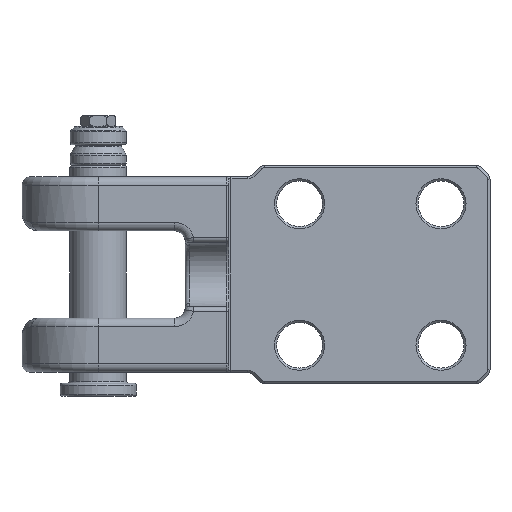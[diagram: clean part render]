
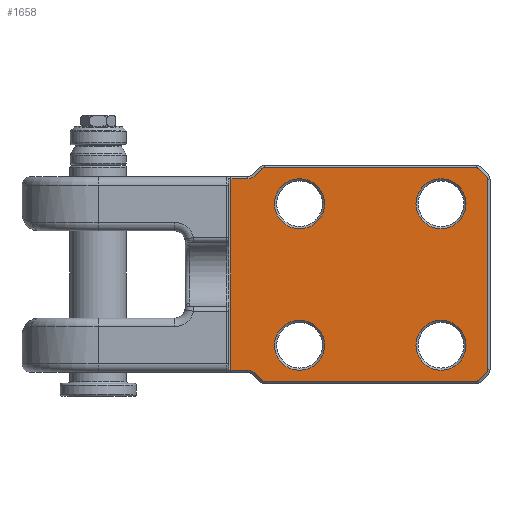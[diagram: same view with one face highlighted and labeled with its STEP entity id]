
A CAD part, left-side view. The second image highlights one B-rep face of the part: STEP entity #1658.
In plain terms, the highlighted planar face has unit normal (-1, 0, 0).
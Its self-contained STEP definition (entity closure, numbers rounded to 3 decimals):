
#1658=ADVANCED_FACE('',(#3230,#3231,#3232,#3233,#3234),#2618,.F.);
#2618=PLANE('',#17720);
#2990=CIRCLE('',#17708,11.5);
#2991=CIRCLE('',#17709,11.5);
#2992=CIRCLE('',#17710,11.5);
#2993=CIRCLE('',#17711,11.5);
#2994=CIRCLE('',#17712,4.);
#2995=CIRCLE('',#17713,4.);
#2996=CIRCLE('',#17714,2.);
#2997=CIRCLE('',#17715,2.);
#2998=CIRCLE('',#17716,2.);
#2999=CIRCLE('',#17717,2.);
#3000=CIRCLE('',#17718,2.);
#3001=CIRCLE('',#17719,2.);
#3230=FACE_BOUND('',#3451,.T.);
#3231=FACE_BOUND('',#3452,.T.);
#3232=FACE_BOUND('',#3453,.T.);
#3233=FACE_BOUND('',#3454,.T.);
#3234=FACE_BOUND('',#3455,.T.);
#3451=EDGE_LOOP('',(#6476));
#3452=EDGE_LOOP('',(#6477));
#3453=EDGE_LOOP('',(#6478));
#3454=EDGE_LOOP('',(#6479));
#3455=EDGE_LOOP('',(#6480,#6481,#6482,#6483,#6484,#6485,#6486,#6487,#6488,
#6489,#6490,#6491,#6492,#6493,#6494,#6495,#6496,#6497));
#6476=ORIENTED_EDGE('',*,*,#13018,.T.);
#6477=ORIENTED_EDGE('',*,*,#13019,.T.);
#6478=ORIENTED_EDGE('',*,*,#13020,.T.);
#6479=ORIENTED_EDGE('',*,*,#13021,.T.);
#6480=ORIENTED_EDGE('',*,*,#13022,.T.);
#6481=ORIENTED_EDGE('',*,*,#13023,.T.);
#6482=ORIENTED_EDGE('',*,*,#13024,.T.);
#6483=ORIENTED_EDGE('',*,*,#13025,.T.);
#6484=ORIENTED_EDGE('',*,*,#13026,.T.);
#6485=ORIENTED_EDGE('',*,*,#13027,.T.);
#6486=ORIENTED_EDGE('',*,*,#13028,.T.);
#6487=ORIENTED_EDGE('',*,*,#13029,.T.);
#6488=ORIENTED_EDGE('',*,*,#13030,.T.);
#6489=ORIENTED_EDGE('',*,*,#13031,.T.);
#6490=ORIENTED_EDGE('',*,*,#13032,.T.);
#6491=ORIENTED_EDGE('',*,*,#13033,.T.);
#6492=ORIENTED_EDGE('',*,*,#13034,.T.);
#6493=ORIENTED_EDGE('',*,*,#13035,.T.);
#6494=ORIENTED_EDGE('',*,*,#13036,.T.);
#6495=ORIENTED_EDGE('',*,*,#13037,.T.);
#6496=ORIENTED_EDGE('',*,*,#13038,.T.);
#6497=ORIENTED_EDGE('',*,*,#13039,.T.);
#11389=VERTEX_POINT('',#23459);
#11390=VERTEX_POINT('',#23461);
#11391=VERTEX_POINT('',#23463);
#11392=VERTEX_POINT('',#23465);
#11393=VERTEX_POINT('',#23467);
#11394=VERTEX_POINT('',#23468);
#11395=VERTEX_POINT('',#23470);
#11396=VERTEX_POINT('',#23472);
#11397=VERTEX_POINT('',#23474);
#11398=VERTEX_POINT('',#23476);
#11399=VERTEX_POINT('',#23478);
#11400=VERTEX_POINT('',#23480);
#11401=VERTEX_POINT('',#23482);
#11402=VERTEX_POINT('',#23484);
#11403=VERTEX_POINT('',#23486);
#11404=VERTEX_POINT('',#23488);
#11405=VERTEX_POINT('',#23490);
#11406=VERTEX_POINT('',#23492);
#11407=VERTEX_POINT('',#23494);
#11408=VERTEX_POINT('',#23496);
#11409=VERTEX_POINT('',#23498);
#11410=VERTEX_POINT('',#23500);
#13018=EDGE_CURVE('',#11389,#11389,#2990,.T.);
#13019=EDGE_CURVE('',#11390,#11390,#2991,.T.);
#13020=EDGE_CURVE('',#11391,#11391,#2992,.T.);
#13021=EDGE_CURVE('',#11392,#11392,#2993,.T.);
#13022=EDGE_CURVE('',#11393,#11394,#2994,.T.);
#13023=EDGE_CURVE('',#11394,#11395,#15212,.T.);
#13024=EDGE_CURVE('',#11395,#11396,#15213,.T.);
#13025=EDGE_CURVE('',#11396,#11397,#15214,.T.);
#13026=EDGE_CURVE('',#11397,#11398,#2995,.T.);
#13027=EDGE_CURVE('',#11398,#11399,#15215,.T.);
#13028=EDGE_CURVE('',#11399,#11400,#2996,.T.);
#13029=EDGE_CURVE('',#11400,#11401,#15216,.T.);
#13030=EDGE_CURVE('',#11401,#11402,#2997,.T.);
#13031=EDGE_CURVE('',#11402,#11403,#15217,.T.);
#13032=EDGE_CURVE('',#11403,#11404,#2998,.T.);
#13033=EDGE_CURVE('',#11404,#11405,#15218,.T.);
#13034=EDGE_CURVE('',#11405,#11406,#2999,.T.);
#13035=EDGE_CURVE('',#11406,#11407,#15219,.T.);
#13036=EDGE_CURVE('',#11407,#11408,#3000,.T.);
#13037=EDGE_CURVE('',#11408,#11409,#15220,.T.);
#13038=EDGE_CURVE('',#11409,#11410,#3001,.T.);
#13039=EDGE_CURVE('',#11410,#11393,#15221,.T.);
#15212=LINE('',#23469,#16293);
#15213=LINE('',#23471,#16294);
#15214=LINE('',#23473,#16295);
#15215=LINE('',#23477,#16296);
#15216=LINE('',#23481,#16297);
#15217=LINE('',#23485,#16298);
#15218=LINE('',#23489,#16299);
#15219=LINE('',#23493,#16300);
#15220=LINE('',#23497,#16301);
#15221=LINE('',#23501,#16302);
#16293=VECTOR('',#18709,1.);
#16294=VECTOR('',#18710,1.);
#16295=VECTOR('',#18711,1.);
#16296=VECTOR('',#18714,1.);
#16297=VECTOR('',#18717,1.);
#16298=VECTOR('',#18720,1.);
#16299=VECTOR('',#18723,1.);
#16300=VECTOR('',#18726,1.);
#16301=VECTOR('',#18729,1.);
#16302=VECTOR('',#18732,1.);
#17708=AXIS2_PLACEMENT_3D('',#23458,#18699,#18700);
#17709=AXIS2_PLACEMENT_3D('',#23460,#18701,#18702);
#17710=AXIS2_PLACEMENT_3D('',#23462,#18703,#18704);
#17711=AXIS2_PLACEMENT_3D('',#23464,#18705,#18706);
#17712=AXIS2_PLACEMENT_3D('',#23466,#18707,#18708);
#17713=AXIS2_PLACEMENT_3D('',#23475,#18712,#18713);
#17714=AXIS2_PLACEMENT_3D('',#23479,#18715,#18716);
#17715=AXIS2_PLACEMENT_3D('',#23483,#18718,#18719);
#17716=AXIS2_PLACEMENT_3D('',#23487,#18721,#18722);
#17717=AXIS2_PLACEMENT_3D('',#23491,#18724,#18725);
#17718=AXIS2_PLACEMENT_3D('',#23495,#18727,#18728);
#17719=AXIS2_PLACEMENT_3D('',#23499,#18730,#18731);
#17720=AXIS2_PLACEMENT_3D('',#23502,#18733,#18734);
#18699=DIRECTION('',(1.,0.,0.));
#18700=DIRECTION('',(0.,0.,-1.));
#18701=DIRECTION('',(1.,0.,0.));
#18702=DIRECTION('',(0.,0.,-1.));
#18703=DIRECTION('',(1.,0.,0.));
#18704=DIRECTION('',(0.,0.,-1.));
#18705=DIRECTION('',(1.,0.,0.));
#18706=DIRECTION('',(0.,0.,-1.));
#18707=DIRECTION('',(1.,0.,0.));
#18708=DIRECTION('',(0.,0.,-1.));
#18709=DIRECTION('',(0.,1.,0.));
#18710=DIRECTION('',(0.,0.,-1.));
#18711=DIRECTION('',(0.,-1.,0.));
#18712=DIRECTION('',(1.,0.,0.));
#18713=DIRECTION('',(0.,0.,-1.));
#18714=DIRECTION('',(0.,-0.707,-0.707));
#18715=DIRECTION('',(-1.,0.,0.));
#18716=DIRECTION('',(0.,0.,-1.));
#18717=DIRECTION('',(0.,-1.,0.));
#18718=DIRECTION('',(-1.,0.,0.));
#18719=DIRECTION('',(0.,0.,-1.));
#18720=DIRECTION('',(0.,-0.707,0.707));
#18721=DIRECTION('',(-1.,0.,0.));
#18722=DIRECTION('',(0.,0.,-1.));
#18723=DIRECTION('',(0.,0.,1.));
#18724=DIRECTION('',(-1.,0.,0.));
#18725=DIRECTION('',(0.,0.,-1.));
#18726=DIRECTION('',(0.,0.707,0.707));
#18727=DIRECTION('',(-1.,0.,0.));
#18728=DIRECTION('',(0.,0.,-1.));
#18729=DIRECTION('',(0.,1.,0.));
#18730=DIRECTION('',(-1.,0.,0.));
#18731=DIRECTION('',(0.,0.,-1.));
#18732=DIRECTION('',(0.,0.707,-0.707));
#18733=DIRECTION('',(1.,0.,0.));
#18734=DIRECTION('',(0.,0.,-1.));
#23458=CARTESIAN_POINT('',(-15.,22.5,-82.5));
#23459=CARTESIAN_POINT('',(-15.,22.5,-94.));
#23460=CARTESIAN_POINT('',(-15.,87.5,-82.5));
#23461=CARTESIAN_POINT('',(-15.,87.5,-94.));
#23462=CARTESIAN_POINT('',(-15.,22.5,-17.5));
#23463=CARTESIAN_POINT('',(-15.,22.5,-29.));
#23464=CARTESIAN_POINT('',(-15.,87.5,-17.5));
#23465=CARTESIAN_POINT('',(-15.,87.5,-29.));
#23466=CARTESIAN_POINT('',(-15.,111.243,-2.));
#23467=CARTESIAN_POINT('',(-15.,108.414,-4.828));
#23468=CARTESIAN_POINT('',(-15.,111.243,-6.));
#23469=CARTESIAN_POINT('',(-15.,0.,-6.));
#23470=CARTESIAN_POINT('',(-15.,119.,-6.));
#23471=CARTESIAN_POINT('',(-15.,119.,0.));
#23472=CARTESIAN_POINT('',(-15.,119.,-94.));
#23473=CARTESIAN_POINT('',(-15.,111.243,-94.));
#23474=CARTESIAN_POINT('',(-15.,111.243,-94.));
#23475=CARTESIAN_POINT('',(-15.,111.243,-98.));
#23476=CARTESIAN_POINT('',(-15.,108.414,-95.172));
#23477=CARTESIAN_POINT('',(-15.,105.172,-98.414));
#23478=CARTESIAN_POINT('',(-15.,105.172,-98.414));
#23479=CARTESIAN_POINT('',(-15.,103.757,-97.));
#23480=CARTESIAN_POINT('',(-15.,103.757,-99.));
#23481=CARTESIAN_POINT('',(-15.,0.,-99.));
#23482=CARTESIAN_POINT('',(-15.,6.243,-99.));
#23483=CARTESIAN_POINT('',(-15.,6.243,-97.));
#23484=CARTESIAN_POINT('',(-15.,4.828,-98.414));
#23485=CARTESIAN_POINT('',(-15.,1.586,-95.172));
#23486=CARTESIAN_POINT('',(-15.,1.586,-95.172));
#23487=CARTESIAN_POINT('',(-15.,3.,-93.757));
#23488=CARTESIAN_POINT('',(-15.,1.,-93.757));
#23489=CARTESIAN_POINT('',(-15.,1.,0.));
#23490=CARTESIAN_POINT('',(-15.,1.,-6.243));
#23491=CARTESIAN_POINT('',(-15.,3.,-6.243));
#23492=CARTESIAN_POINT('',(-15.,1.586,-4.828));
#23493=CARTESIAN_POINT('',(-15.,4.828,-1.586));
#23494=CARTESIAN_POINT('',(-15.,4.828,-1.586));
#23495=CARTESIAN_POINT('',(-15.,6.243,-3.));
#23496=CARTESIAN_POINT('',(-15.,6.243,-1.));
#23497=CARTESIAN_POINT('',(-15.,0.,-1.));
#23498=CARTESIAN_POINT('',(-15.,103.757,-1.));
#23499=CARTESIAN_POINT('',(-15.,103.757,-3.));
#23500=CARTESIAN_POINT('',(-15.,105.172,-1.586));
#23501=CARTESIAN_POINT('',(-15.,108.414,-4.828));
#23502=CARTESIAN_POINT('',(-15.,0.,0.));
